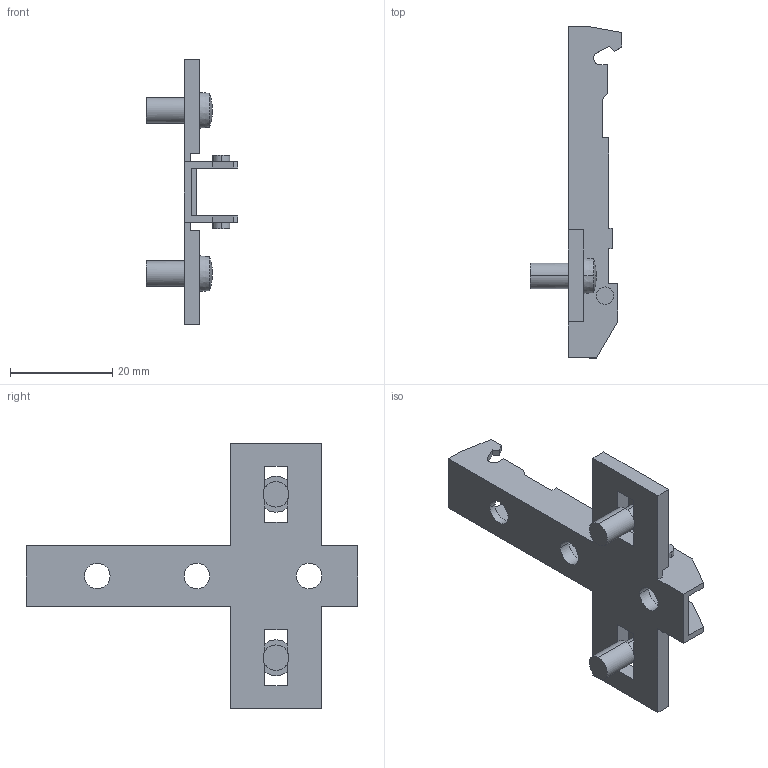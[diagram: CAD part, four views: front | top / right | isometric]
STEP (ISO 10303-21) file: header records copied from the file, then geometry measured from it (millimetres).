
FILE_DESCRIPTION (( 'STEP AP214' ), '1' );
FILE_NAME ('Eco Kreuzmontageplatte LR28_32_Dübel 5mm_kurz_H00.step', '2010-11-18T10:07:02', ( 'grass' ), ( '' ), 'SwSTEP 2.0', 'SolidWorks 2010', '' );
FILE_SCHEMA (( 'AUTOMOTIVE_DESIGN' ));
Length unit declared in the file: millimetre
Products named in the file (1): Eco Kreuzmontageplatte LR28_32_Dübel 5mm_kurz_H00
Bounding box: 18 x 65 x 52 mm (x, y, z)
Volume: 4574.8 mm3; surface area: 5796.5 mm2
Topology: 1 solids, 1 shells, 104 faces, 306 edges, 198 vertices
Faces by surface type: plane 76, cylinder 20, sphere 4, cone 4
Entity records: 3512 total; most frequent: ORIENTED_EDGE 612, CARTESIAN_POINT 609, DIRECTION 584, EDGE_CURVE 306, LINE 238, VECTOR 238, VERTEX_POINT 198, AXIS2_PLACEMENT_3D 173
